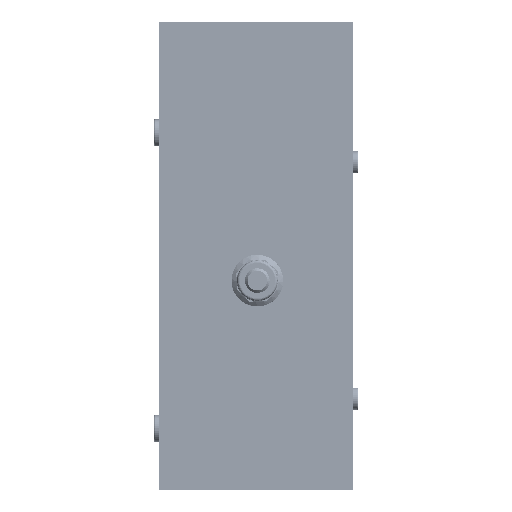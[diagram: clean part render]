
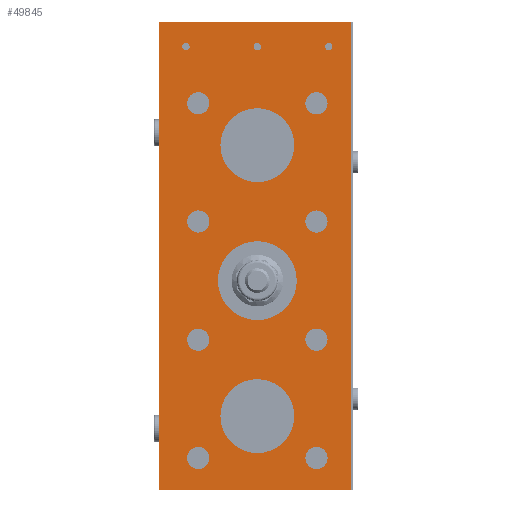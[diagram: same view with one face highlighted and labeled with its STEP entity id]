
A CAD part, left-side view. The second image highlights one B-rep face of the part: STEP entity #49845.
In plain terms, the highlighted planar face has unit normal (-1, 0, 0).
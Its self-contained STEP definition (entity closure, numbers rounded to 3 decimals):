
#47957=CARTESIAN_POINT('',(-144.0,28.5,-82.0));
#47958=VERTEX_POINT('',#47957);
#47959=CARTESIAN_POINT('',(-144.0,24.0,-82.0));
#47960=DIRECTION('',(1.0,0.0,0.0));
#47961=DIRECTION('',(0.0,1.0,0.0));
#47962=AXIS2_PLACEMENT_3D('',#47959,#47960,#47961);
#47963=CIRCLE('',#47962,4.5);
#47964=EDGE_CURVE('',#47958,#47958,#47963,.T.);
#48026=CARTESIAN_POINT('',(-144.0,-19.5,-34.0));
#48027=VERTEX_POINT('',#48026);
#48028=CARTESIAN_POINT('',(-144.0,-24.,-34.0));
#48029=DIRECTION('',(1.0,0.0,0.0));
#48030=DIRECTION('',(0.0,1.0,0.0));
#48031=AXIS2_PLACEMENT_3D('',#48028,#48029,#48030);
#48032=CIRCLE('',#48031,4.5);
#48033=EDGE_CURVE('',#48027,#48027,#48032,.T.);
#48095=CARTESIAN_POINT('',(-144.0,28.5,14.));
#48096=VERTEX_POINT('',#48095);
#48097=CARTESIAN_POINT('',(-144.0,24.,14.));
#48098=DIRECTION('',(1.0,0.0,0.0));
#48099=DIRECTION('',(0.0,1.0,0.0));
#48100=AXIS2_PLACEMENT_3D('',#48097,#48098,#48099);
#48101=CIRCLE('',#48100,4.5);
#48102=EDGE_CURVE('',#48096,#48096,#48101,.T.);
#48164=CARTESIAN_POINT('',(-144.0,-19.5,62.));
#48165=VERTEX_POINT('',#48164);
#48166=CARTESIAN_POINT('',(-144.0,-24.,62.));
#48167=DIRECTION('',(1.0,0.0,0.0));
#48168=DIRECTION('',(0.0,1.0,0.0));
#48169=AXIS2_PLACEMENT_3D('',#48166,#48167,#48168);
#48170=CIRCLE('',#48169,4.5);
#48171=EDGE_CURVE('',#48165,#48165,#48170,.T.);
#48233=CARTESIAN_POINT('',(-144.0,28.5,62.));
#48234=VERTEX_POINT('',#48233);
#48235=CARTESIAN_POINT('',(-144.0,24.,62.));
#48236=DIRECTION('',(1.0,0.0,0.0));
#48237=DIRECTION('',(0.0,1.0,0.0));
#48238=AXIS2_PLACEMENT_3D('',#48235,#48236,#48237);
#48239=CIRCLE('',#48238,4.5);
#48240=EDGE_CURVE('',#48234,#48234,#48239,.T.);
#48302=CARTESIAN_POINT('',(-144.0,-19.5,14.));
#48303=VERTEX_POINT('',#48302);
#48304=CARTESIAN_POINT('',(-144.0,-24.,14.));
#48305=DIRECTION('',(1.0,0.0,0.0));
#48306=DIRECTION('',(0.0,1.0,0.0));
#48307=AXIS2_PLACEMENT_3D('',#48304,#48305,#48306);
#48308=CIRCLE('',#48307,4.5);
#48309=EDGE_CURVE('',#48303,#48303,#48308,.T.);
#48371=CARTESIAN_POINT('',(-144.0,-19.5,-82.0));
#48372=VERTEX_POINT('',#48371);
#48373=CARTESIAN_POINT('',(-144.0,-24.,-82.0));
#48374=DIRECTION('',(1.0,0.0,0.0));
#48375=DIRECTION('',(0.0,1.0,0.0));
#48376=AXIS2_PLACEMENT_3D('',#48373,#48374,#48375);
#48377=CIRCLE('',#48376,4.5);
#48378=EDGE_CURVE('',#48372,#48372,#48377,.T.);
#48440=CARTESIAN_POINT('',(-144.0,28.5,-34.0));
#48441=VERTEX_POINT('',#48440);
#48442=CARTESIAN_POINT('',(-144.0,24.,-34.0));
#48443=DIRECTION('',(1.0,0.0,0.0));
#48444=DIRECTION('',(0.0,1.0,0.0));
#48445=AXIS2_PLACEMENT_3D('',#48442,#48443,#48444);
#48446=CIRCLE('',#48445,4.5);
#48447=EDGE_CURVE('',#48441,#48441,#48446,.T.);
#48509=CARTESIAN_POINT('',(-144.0,15.,45.));
#48510=VERTEX_POINT('',#48509);
#48511=CARTESIAN_POINT('',(-144.0,0.,45.));
#48512=DIRECTION('',(1.0,0.0,0.0));
#48513=DIRECTION('',(0.0,1.0,0.0));
#48514=AXIS2_PLACEMENT_3D('',#48511,#48512,#48513);
#48515=CIRCLE('',#48514,15.0);
#48516=EDGE_CURVE('',#48510,#48510,#48515,.T.);
#48550=CARTESIAN_POINT('',(-144.0,15.,-65.0));
#48551=VERTEX_POINT('',#48550);
#48552=CARTESIAN_POINT('',(-144.0,0.,-65.0));
#48553=DIRECTION('',(1.0,0.0,0.0));
#48554=DIRECTION('',(0.0,1.0,0.0));
#48555=AXIS2_PLACEMENT_3D('',#48552,#48553,#48554);
#48556=CIRCLE('',#48555,15.0);
#48557=EDGE_CURVE('',#48551,#48551,#48556,.T.);
#48591=CARTESIAN_POINT('',(-144.0,16.,-10.));
#48592=VERTEX_POINT('',#48591);
#48593=CARTESIAN_POINT('',(-144.0,0.,-10.));
#48594=DIRECTION('',(1.0,0.0,0.0));
#48595=DIRECTION('',(0.0,1.0,0.0));
#48596=AXIS2_PLACEMENT_3D('',#48593,#48594,#48595);
#48597=CIRCLE('',#48596,16.0);
#48598=EDGE_CURVE('',#48592,#48592,#48597,.T.);
#48632=CARTESIAN_POINT('',(-144.0,1.5,85.0));
#48633=VERTEX_POINT('',#48632);
#48634=CARTESIAN_POINT('',(-144.0,0.,85.0));
#48635=DIRECTION('',(1.0,0.0,0.0));
#48636=DIRECTION('',(0.0,-1.0,0.0));
#48637=AXIS2_PLACEMENT_3D('',#48634,#48635,#48636);
#48638=CIRCLE('',#48637,1.5);
#48639=EDGE_CURVE('',#48633,#48633,#48638,.T.);
#48673=CARTESIAN_POINT('',(-144.0,30.5,85.0));
#48674=VERTEX_POINT('',#48673);
#48675=CARTESIAN_POINT('',(-144.0,29.,85.0));
#48676=DIRECTION('',(1.0,0.0,0.0));
#48677=DIRECTION('',(0.0,-1.0,0.0));
#48678=AXIS2_PLACEMENT_3D('',#48675,#48676,#48677);
#48679=CIRCLE('',#48678,1.5);
#48680=EDGE_CURVE('',#48674,#48674,#48679,.T.);
#48714=CARTESIAN_POINT('',(-144.0,-27.5,85.0));
#48715=VERTEX_POINT('',#48714);
#48716=CARTESIAN_POINT('',(-144.0,-29.,85.0));
#48717=DIRECTION('',(1.0,0.0,0.0));
#48718=DIRECTION('',(0.0,-1.0,0.0));
#48719=AXIS2_PLACEMENT_3D('',#48716,#48717,#48718);
#48720=CIRCLE('',#48719,1.5);
#48721=EDGE_CURVE('',#48715,#48715,#48720,.T.);
#49594=CARTESIAN_POINT('',(-144.0,40.,95.));
#49595=VERTEX_POINT('',#49594);
#49596=CARTESIAN_POINT('',(-144.0,-38.,95.));
#49597=VERTEX_POINT('',#49596);
#49598=CARTESIAN_POINT('',(-144.0,40.,95.));
#49599=DIRECTION('',(0.0,-1.0,0.0));
#49600=VECTOR('',#49599,78.0);
#49601=LINE('',#49598,#49600);
#49602=EDGE_CURVE('',#49595,#49597,#49601,.T.);
#49634=CARTESIAN_POINT('',(-144.0,-38.,-95.));
#49635=VERTEX_POINT('',#49634);
#49636=CARTESIAN_POINT('',(-144.0,-38.,95.));
#49637=DIRECTION('',(0.0,0.0,-1.0));
#49638=VECTOR('',#49637,190.0);
#49639=LINE('',#49636,#49638);
#49640=EDGE_CURVE('',#49597,#49635,#49639,.T.);
#49665=CARTESIAN_POINT('',(-144.0,40.,-95.0));
#49666=VERTEX_POINT('',#49665);
#49667=CARTESIAN_POINT('',(-144.0,-38.,-95.));
#49668=DIRECTION('',(0.0,1.0,0.0));
#49669=VECTOR('',#49668,78.);
#49670=LINE('',#49667,#49669);
#49671=EDGE_CURVE('',#49635,#49666,#49670,.T.);
#49696=CARTESIAN_POINT('',(-144.0,40.,-95.0));
#49697=DIRECTION('',(0.0,0.0,1.0));
#49698=VECTOR('',#49697,190.);
#49699=LINE('',#49696,#49698);
#49700=EDGE_CURVE('',#49666,#49595,#49699,.T.);
#49792=CARTESIAN_POINT('',(-144.0,1.,0.));
#49793=DIRECTION('',(-1.0,0.0,0.0));
#49794=DIRECTION('',(0.0,1.0,0.0));
#49795=AXIS2_PLACEMENT_3D('',#49792,#49793,#49794);
#49796=PLANE('',#49795);
#49797=ORIENTED_EDGE('',*,*,#49602,.F.);
#49798=ORIENTED_EDGE('',*,*,#49700,.F.);
#49799=ORIENTED_EDGE('',*,*,#49671,.F.);
#49800=ORIENTED_EDGE('',*,*,#49640,.F.);
#49801=EDGE_LOOP('',(#49797,#49798,#49799,#49800));
#49802=FACE_OUTER_BOUND('',#49801,.T.);
#49803=ORIENTED_EDGE('',*,*,#47964,.T.);
#49804=EDGE_LOOP('',(#49803));
#49805=FACE_BOUND('',#49804,.T.);
#49806=ORIENTED_EDGE('',*,*,#48033,.T.);
#49807=EDGE_LOOP('',(#49806));
#49808=FACE_BOUND('',#49807,.T.);
#49809=ORIENTED_EDGE('',*,*,#48102,.T.);
#49810=EDGE_LOOP('',(#49809));
#49811=FACE_BOUND('',#49810,.T.);
#49812=ORIENTED_EDGE('',*,*,#48171,.T.);
#49813=EDGE_LOOP('',(#49812));
#49814=FACE_BOUND('',#49813,.T.);
#49815=ORIENTED_EDGE('',*,*,#48240,.T.);
#49816=EDGE_LOOP('',(#49815));
#49817=FACE_BOUND('',#49816,.T.);
#49818=ORIENTED_EDGE('',*,*,#48309,.T.);
#49819=EDGE_LOOP('',(#49818));
#49820=FACE_BOUND('',#49819,.T.);
#49821=ORIENTED_EDGE('',*,*,#48378,.T.);
#49822=EDGE_LOOP('',(#49821));
#49823=FACE_BOUND('',#49822,.T.);
#49824=ORIENTED_EDGE('',*,*,#48447,.T.);
#49825=EDGE_LOOP('',(#49824));
#49826=FACE_BOUND('',#49825,.T.);
#49827=ORIENTED_EDGE('',*,*,#48516,.T.);
#49828=EDGE_LOOP('',(#49827));
#49829=FACE_BOUND('',#49828,.T.);
#49830=ORIENTED_EDGE('',*,*,#48557,.T.);
#49831=EDGE_LOOP('',(#49830));
#49832=FACE_BOUND('',#49831,.T.);
#49833=ORIENTED_EDGE('',*,*,#48598,.T.);
#49834=EDGE_LOOP('',(#49833));
#49835=FACE_BOUND('',#49834,.T.);
#49836=ORIENTED_EDGE('',*,*,#48639,.T.);
#49837=EDGE_LOOP('',(#49836));
#49838=FACE_BOUND('',#49837,.T.);
#49839=ORIENTED_EDGE('',*,*,#48680,.T.);
#49840=EDGE_LOOP('',(#49839));
#49841=FACE_BOUND('',#49840,.T.);
#49842=ORIENTED_EDGE('',*,*,#48721,.T.);
#49843=EDGE_LOOP('',(#49842));
#49844=FACE_BOUND('',#49843,.T.);
#49845=ADVANCED_FACE('',(#49802,#49805,#49808,#49811,#49814,#49817,#49820,#49823,#49826,#49829,#49832,#49835,#49838,#49841,#49844),#49796,.T.);
